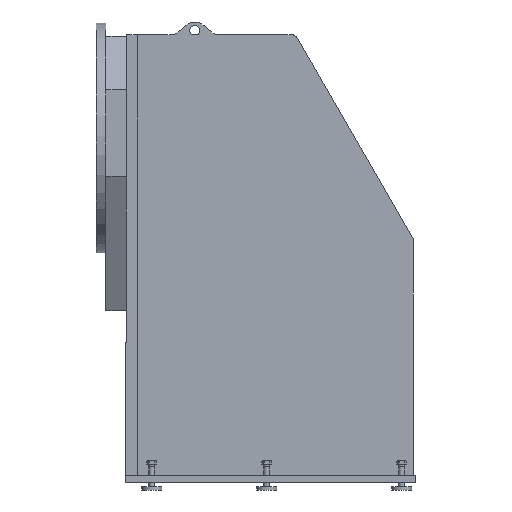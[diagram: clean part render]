
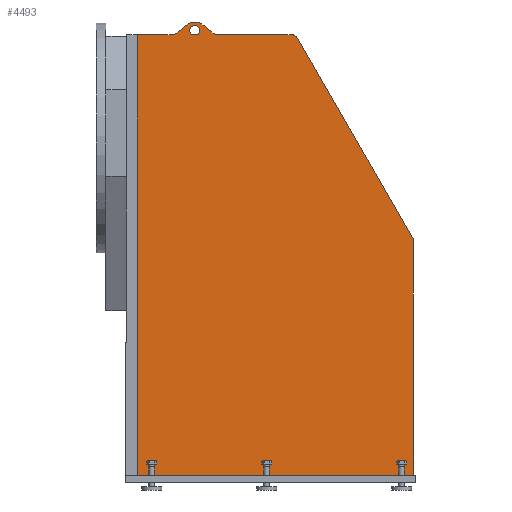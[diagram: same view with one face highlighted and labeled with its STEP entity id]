
A CAD part, front view. The second image highlights one B-rep face of the part: STEP entity #4493.
In plain terms, the highlighted planar face has unit normal (0, -1, 0).
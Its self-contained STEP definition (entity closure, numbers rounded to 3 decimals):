
#248=CARTESIAN_POINT('',(0.,-325.,-1175.));
#249=VERTEX_POINT('',#248);
#256=CARTESIAN_POINT('',(0.,-325.0,360.0));
#257=VERTEX_POINT('',#256);
#258=CARTESIAN_POINT('',(0.,-325.,-1175.));
#259=DIRECTION('',(0.0,0.0,1.0));
#260=VECTOR('',#259,1535.);
#261=LINE('',#258,#260);
#262=EDGE_CURVE('',#249,#257,#261,.T.);
#534=CARTESIAN_POINT('',(208.724,-325.,360.));
#535=VERTEX_POINT('',#534);
#542=CARTESIAN_POINT('',(190.696,-325.,360.));
#543=VERTEX_POINT('',#542);
#544=CARTESIAN_POINT('',(199.71,-325.,375.));
#545=DIRECTION('',(0.0,1.0,0.0));
#546=DIRECTION('',(1.0,0.0,0.0));
#547=AXIS2_PLACEMENT_3D('',#544,#545,#546);
#548=CIRCLE('',#547,17.5);
#549=EDGE_CURVE('',#543,#535,#548,.T.);
#4181=CARTESIAN_POINT('',(538.452,-325.,360.));
#4182=VERTEX_POINT('',#4181);
#4183=CARTESIAN_POINT('',(555.773,-325.,349.999));
#4184=VERTEX_POINT('',#4183);
#4185=CARTESIAN_POINT('',(538.452,-325.,340.));
#4186=DIRECTION('',(0.,1.0,0.));
#4187=DIRECTION('',(0.5,0.,0.866));
#4188=AXIS2_PLACEMENT_3D('',#4185,#4186,#4187);
#4189=CIRCLE('',#4188,20.);
#4190=EDGE_CURVE('',#4182,#4184,#4189,.T.);
#4213=CARTESIAN_POINT('',(113.621,-325.,360.));
#4214=VERTEX_POINT('',#4213);
#4215=CARTESIAN_POINT('',(0.,-325.0,360.0));
#4216=DIRECTION('',(1.0,0.0,0.0));
#4217=VECTOR('',#4216,113.621);
#4218=LINE('',#4215,#4217);
#4219=EDGE_CURVE('',#257,#4214,#4218,.T.);
#4229=CARTESIAN_POINT('',(190.696,-325.,360.));
#4230=DIRECTION('',(1.0,0.0,0.0));
#4231=VECTOR('',#4230,18.028);
#4232=LINE('',#4229,#4231);
#4233=EDGE_CURVE('',#543,#535,#4232,.T.);
#4237=CARTESIAN_POINT('',(285.799,-325.,360.));
#4238=VERTEX_POINT('',#4237);
#4245=CARTESIAN_POINT('',(285.799,-325.,360.));
#4246=DIRECTION('',(1.0,0.0,0.0));
#4247=VECTOR('',#4246,252.653);
#4248=LINE('',#4245,#4247);
#4249=EDGE_CURVE('',#4238,#4182,#4248,.T.);
#4307=CARTESIAN_POINT('',(256.873,-325.,370.528));
#4308=VERTEX_POINT('',#4307);
#4315=CARTESIAN_POINT('',(285.799,-325.,405.));
#4316=DIRECTION('',(0.,-1.0,0.));
#4317=DIRECTION('',(-0.342,0.,-0.94));
#4318=AXIS2_PLACEMENT_3D('',#4315,#4316,#4317);
#4319=CIRCLE('',#4318,45.);
#4320=EDGE_CURVE('',#4308,#4238,#4319,.T.);
#4333=CARTESIAN_POINT('',(228.635,-325.,394.222));
#4334=VERTEX_POINT('',#4333);
#4341=CARTESIAN_POINT('',(228.635,-325.,394.222));
#4342=DIRECTION('',(0.766,0.0,-0.643));
#4343=VECTOR('',#4342,36.862);
#4344=LINE('',#4341,#4343);
#4345=EDGE_CURVE('',#4334,#4308,#4344,.T.);
#4357=CARTESIAN_POINT('',(142.547,-325.,370.528));
#4358=VERTEX_POINT('',#4357);
#4359=CARTESIAN_POINT('',(113.621,-325.,405.));
#4360=DIRECTION('',(0.,-1.,0.));
#4361=DIRECTION('',(0.342,0.,-0.94));
#4362=AXIS2_PLACEMENT_3D('',#4359,#4360,#4361);
#4363=CIRCLE('',#4362,45.);
#4364=EDGE_CURVE('',#4214,#4358,#4363,.T.);
#4380=CARTESIAN_POINT('',(170.785,-325.,394.222));
#4381=VERTEX_POINT('',#4380);
#4382=CARTESIAN_POINT('',(199.71,-325.,359.75));
#4383=DIRECTION('',(0.0,1.0,0.0));
#4384=DIRECTION('',(0.0,0.0,1.0));
#4385=AXIS2_PLACEMENT_3D('',#4382,#4383,#4384);
#4386=CIRCLE('',#4385,45.0);
#4387=EDGE_CURVE('',#4381,#4334,#4386,.T.);
#4406=CARTESIAN_POINT('',(960.,-325.,-350.253));
#4407=VERTEX_POINT('',#4406);
#4408=CARTESIAN_POINT('',(555.773,-325.,349.999));
#4409=DIRECTION('',(0.5,0.0,-0.866));
#4410=VECTOR('',#4409,808.549);
#4411=LINE('',#4408,#4410);
#4412=EDGE_CURVE('',#4184,#4407,#4411,.T.);
#4429=CARTESIAN_POINT('',(960.,-325.,-1175.));
#4430=VERTEX_POINT('',#4429);
#4431=CARTESIAN_POINT('',(960.,-325.,-350.253));
#4432=DIRECTION('',(0.0,0.0,-1.0));
#4433=VECTOR('',#4432,824.747);
#4434=LINE('',#4431,#4433);
#4435=EDGE_CURVE('',#4407,#4430,#4434,.T.);
#4454=CARTESIAN_POINT('',(142.547,-325.,370.528));
#4455=DIRECTION('',(0.766,0.0,0.643));
#4456=VECTOR('',#4455,36.862);
#4457=LINE('',#4454,#4456);
#4458=EDGE_CURVE('',#4358,#4381,#4457,.T.);
#4465=CARTESIAN_POINT('',(429.269,-325.,-456.391));
#4466=DIRECTION('',(0.0,-1.0,0.0));
#4467=DIRECTION('',(1.0,0.0,0.0));
#4468=AXIS2_PLACEMENT_3D('',#4465,#4466,#4467);
#4469=PLANE('',#4468);
#4470=ORIENTED_EDGE('',*,*,#4320,.F.);
#4471=ORIENTED_EDGE('',*,*,#4345,.F.);
#4472=ORIENTED_EDGE('',*,*,#4387,.F.);
#4473=ORIENTED_EDGE('',*,*,#4458,.F.);
#4474=ORIENTED_EDGE('',*,*,#4364,.F.);
#4475=ORIENTED_EDGE('',*,*,#4219,.F.);
#4476=ORIENTED_EDGE('',*,*,#262,.F.);
#4477=CARTESIAN_POINT('',(960.,-325.,-1175.));
#4478=DIRECTION('',(-1.0,0.0,0.0));
#4479=VECTOR('',#4478,960.0);
#4480=LINE('',#4477,#4479);
#4481=EDGE_CURVE('',#4430,#249,#4480,.T.);
#4482=ORIENTED_EDGE('',*,*,#4481,.F.);
#4483=ORIENTED_EDGE('',*,*,#4435,.F.);
#4484=ORIENTED_EDGE('',*,*,#4412,.F.);
#4485=ORIENTED_EDGE('',*,*,#4190,.F.);
#4486=ORIENTED_EDGE('',*,*,#4249,.F.);
#4487=EDGE_LOOP('',(#4470,#4471,#4472,#4473,#4474,#4475,#4476,#4482,#4483,#4484,#4485,#4486));
#4488=FACE_OUTER_BOUND('',#4487,.T.);
#4489=ORIENTED_EDGE('',*,*,#549,.T.);
#4490=ORIENTED_EDGE('',*,*,#4233,.F.);
#4491=EDGE_LOOP('',(#4489,#4490));
#4492=FACE_BOUND('',#4491,.T.);
#4493=ADVANCED_FACE('',(#4488,#4492),#4469,.T.);
